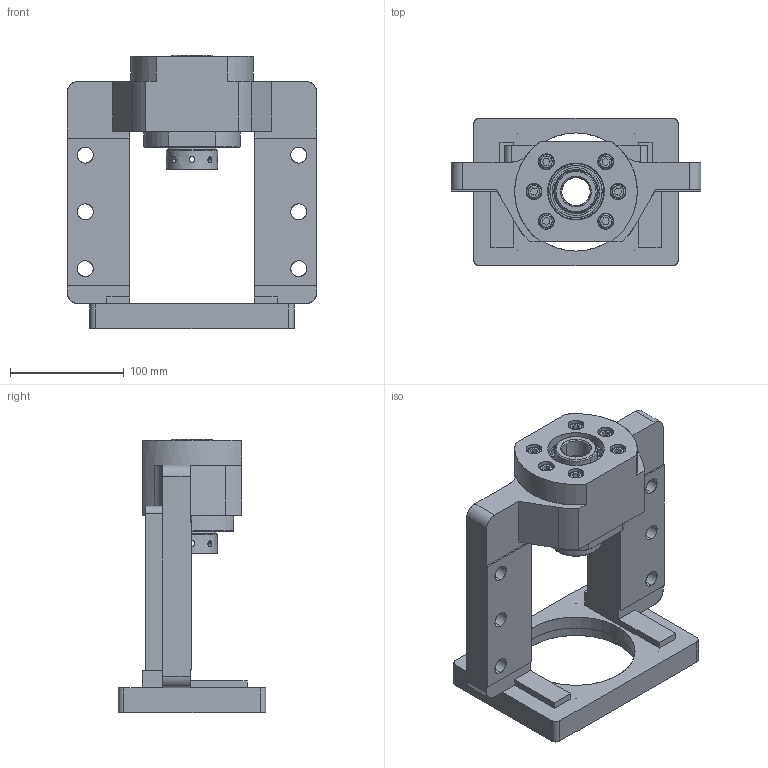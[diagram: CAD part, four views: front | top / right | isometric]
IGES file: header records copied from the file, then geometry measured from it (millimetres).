
Start section: SolidWorks IGES file using analytic representation for surfaces
Bounding box: 220 x 130 x 241 mm (x, y, z)
Surface area: 209090.1 mm2 (no closed solid volume)
Topology: 0 solids, 0 shells, 338 faces, 6516 edges, 6508 vertices
Faces by surface type: revolution 178, bspline 160
